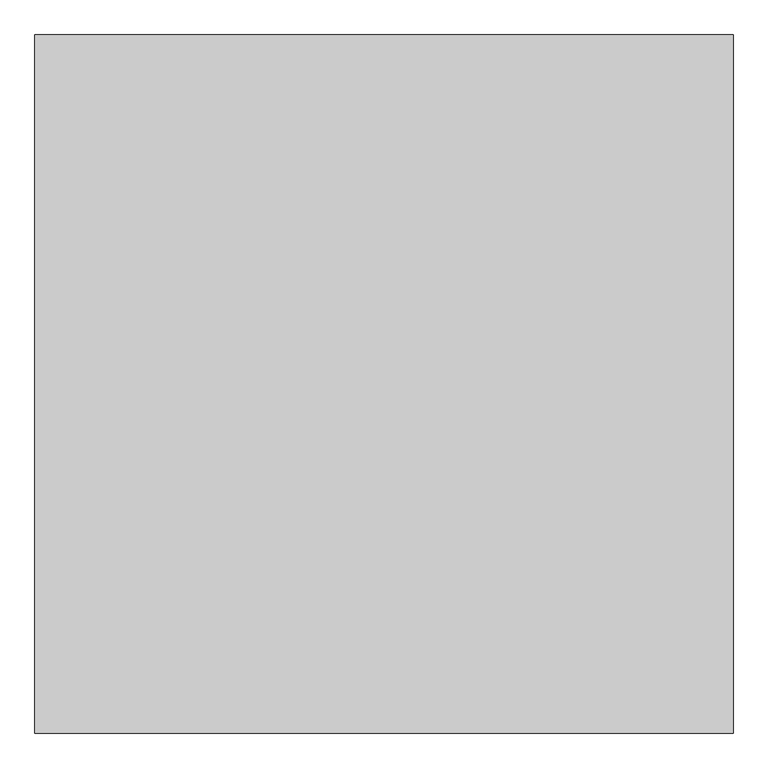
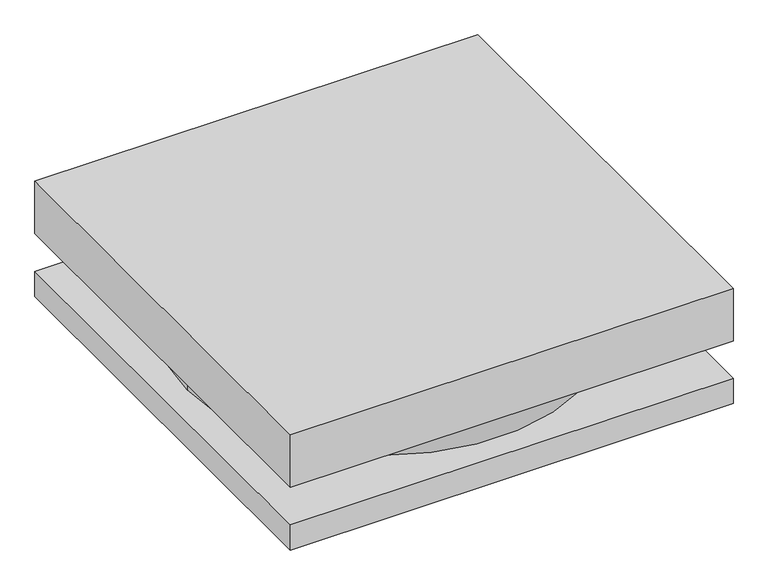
"""IFC4 building model written with IfcOpenShell, lengths in millimetres: proxy geometry, 교좌장치(면기반) : 교좌장치(면기반)."""

from ifc_helpers import new_model, si_unit, point, frame, origin, origin_with_axes, origin_2d, place, context, project, spatial, polyline, circle_curve, trimmed, segment, composite_curve, outline, extrude, source, transform, mapped, element, save


def generic_models_d03a6028(model_context):
    return source(origin(), model_context, "Body", "SweptSolid", [
        extrude(outline(polyline([(1000.0, 1000.0), (1000.0, -1000.0), (-1000.0, -1000.0), (-1000.0, 1000.0), (1000.0, 1000.0)])), frame((0.0, 0.0, 300.0), z_axis=(0.0, 0.0, 1.0), x_axis=(1.0, 0.0, 0.0)), (0.0, 0.0, 1.0), 250.0),
        extrude(outline(composite_curve([segment(trimmed(circle_curve(origin_2d(), 890.0), [point((890.0, 0.0))], [point((-890.0, 0.0))], False, "CARTESIAN"), True, "CONTINUOUS"), segment(trimmed(circle_curve(origin_2d(), 890.0), [point((-890.0, 0.0))], [point((890.0, 0.0))], False, "CARTESIAN"), True, "CONTINUOUS")], self_intersect=False)), frame((0.0, 0.0, 120.0), z_axis=(0.0, 0.0, 1.0), x_axis=(1.0, 0.0, 0.0)), (0.0, 0.0, 1.0), 180.0),
        extrude(outline(polyline([(1000.0, 1000.0), (1000.0, -1000.0), (-1000.0, -1000.0), (-1000.0, 1000.0), (1000.0, 1000.0)])), origin_with_axes(), (0.0, 0.0, 1.0), 120.0),
    ])


if __name__ == "__main__":
    model = new_model("IFC4")
    model_context = context("Model", 3, world=origin())
    ifc_project = project(units=[si_unit("LENGTHUNIT", "METRE", prefix="MILLI")], contexts=[model_context])
    site = spatial("IfcSite", under=ifc_project)
    building = spatial("IfcBuilding", under=site)
    placement = place(None, origin())
    generic_models_shape = generic_models_d03a6028(model_context)
    element("IfcBuildingElementProxy", 1, Name="교좌장치(면기반) : 교좌장치(면기반)", ObjectType="교좌장치(면기반) : 교좌장치(면기반)", at=placement, inside=building, context=model_context, shape_type="MappedRepresentation", body=[
        mapped(generic_models_shape, transform((0.0, 0.0, 0.0), x_axis=(1.0, 0.0, 0.0), y_axis=(0.0, 1.0, 0.0), z_axis=(0.0, 0.0, 1.0))),
    ])
    save(model, "model.ifc")
